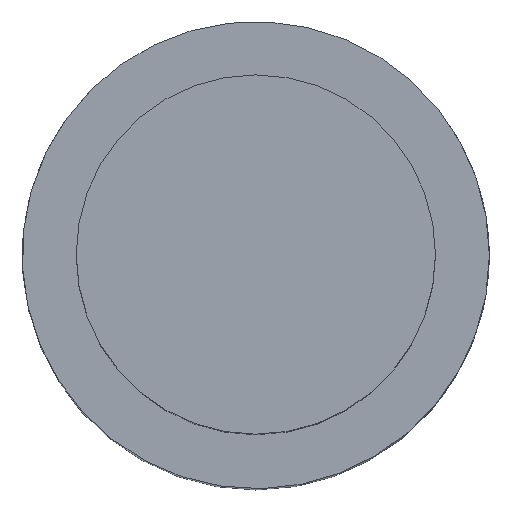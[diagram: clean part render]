
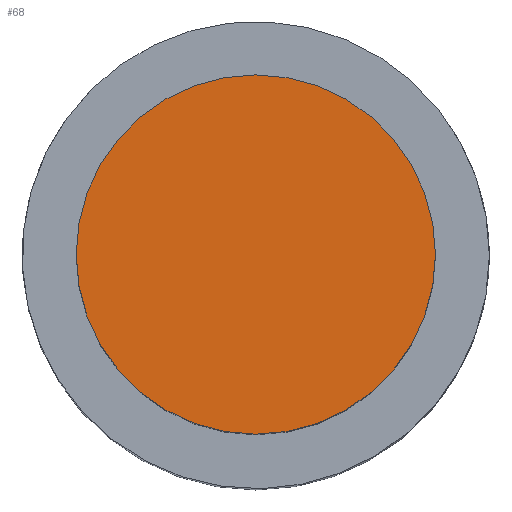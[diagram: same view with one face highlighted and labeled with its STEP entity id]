
A CAD part, top view. The second image highlights one B-rep face of the part: STEP entity #68.
In plain terms, the highlighted planar face has unit normal (0, 0, 1).
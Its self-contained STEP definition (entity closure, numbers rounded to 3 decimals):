
#34=FACE_OUTER_BOUND('',#96,.T.);
#41=PLANE('',#191);
#68=ADVANCED_FACE('',(#34),#41,.T.);
#96=EDGE_LOOP('',(#122));
#122=ORIENTED_EDGE('',*,*,#154,.T.);
#141=VERTEX_POINT('',#257);
#154=EDGE_CURVE('',#141,#141,#171,.T.);
#171=CIRCLE('',#182,5.);
#182=AXIS2_PLACEMENT_3D('',#256,#208,#209);
#191=AXIS2_PLACEMENT_3D('',#281,#232,#233);
#208=DIRECTION('',(0.,0.,1.));
#209=DIRECTION('',(1.,0.,0.));
#232=DIRECTION('',(0.,0.,1.));
#233=DIRECTION('',(-1.,0.,0.));
#256=CARTESIAN_POINT('',(0.,0.,30.));
#257=CARTESIAN_POINT('',(5.,0.,30.));
#281=CARTESIAN_POINT('',(0.,0.,30.));
